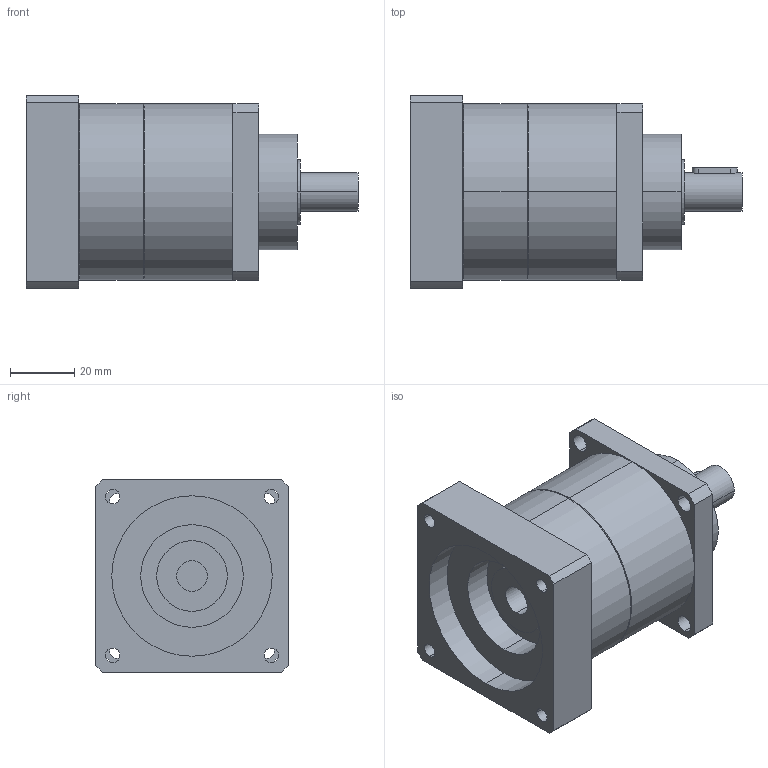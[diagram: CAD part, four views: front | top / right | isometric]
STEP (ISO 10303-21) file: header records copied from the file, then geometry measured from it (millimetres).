
FILE_DESCRIPTION(('CoCreate Modeling STEP Export'),'2;1');
FILE_NAME('GPT55_ig-3-4-5-7-10_12_B5A_9.52_P17.stp','2014-08-25T14:35:00',(''),(''),'CoCreate Modeling STEP processor for AP214 (Solid Model)','CoCreate Modeling 16.00C 25-Feb-2009 (C) Parametric Technology GmbH','');
FILE_SCHEMA(('AUTOMOTIVE_DESIGN { 1 0 10303 214 1 1 1 1 }'));
Length unit declared in the file: millimetre
Products named in the file (2): GPT55_ig-3-4-5-7-10_12_B5A_9.52_P17
Assembly tree (1 placements, depth 2):
  GPT55_ig-3-4-5-7-10_12_B5A_9.52_P17
    GPT55_ig-3-4-5-7-10_12_B5A_9.52_P17
Bounding box: 103.5 x 60 x 60 mm (x, y, z)
Volume: 187044.4 mm3; surface area: 28937.2 mm2
Topology: 1 solids, 1 shells, 77 faces, 204 edges, 139 vertices
Faces by surface type: cylinder 46, plane 27, cone 4
Entity records: 2515 total; most frequent: CARTESIAN_POINT 710, ORIENTED_EDGE 408, DIRECTION 318, EDGE_CURVE 204, VERTEX_POINT 139, AXIS2_PLACEMENT_3D 117, EDGE_LOOP 103, VECTOR 84
